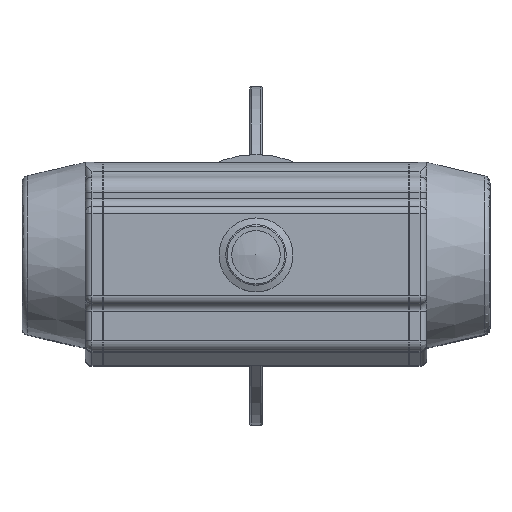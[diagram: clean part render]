
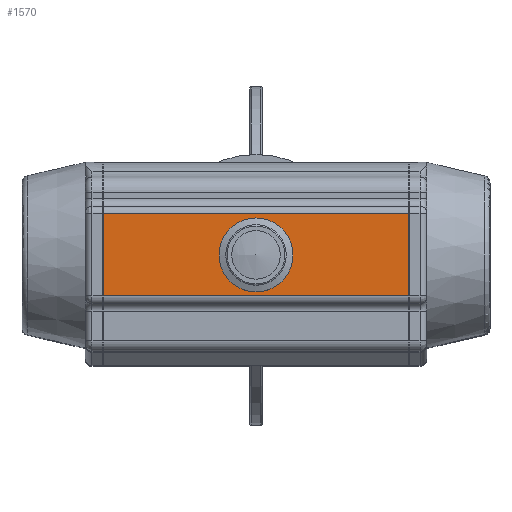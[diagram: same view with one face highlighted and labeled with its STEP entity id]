
A CAD part, top view. The second image highlights one B-rep face of the part: STEP entity #1570.
In plain terms, the highlighted planar face has unit normal (0, 0, 1).
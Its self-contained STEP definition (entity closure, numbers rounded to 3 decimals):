
#1570 = ADVANCED_FACE( '', ( #3265, #3266 ), #3267, .T. );
#3265 = FACE_BOUND( '', #5747, .T. );
#3266 = FACE_OUTER_BOUND( '', #5748, .T. );
#3267 = PLANE( '', #5749 );
#5747 = EDGE_LOOP( '', ( #11068 ) );
#5748 = EDGE_LOOP( '', ( #11069, #11070, #11071, #11072 ) );
#5749 = AXIS2_PLACEMENT_3D( '', #11073, #11074, #11075 );
#11068 = ORIENTED_EDGE( '', *, *, #13141, .F. );
#11069 = ORIENTED_EDGE( '', *, *, #12899, .F. );
#11070 = ORIENTED_EDGE( '', *, *, #12913, .F. );
#11071 = ORIENTED_EDGE( '', *, *, #11701, .T. );
#11072 = ORIENTED_EDGE( '', *, *, #12705, .T. );
#11073 = CARTESIAN_POINT( '', ( 113.5, -30.5, 79. ) );
#11074 = DIRECTION( '', ( 0., 0., 1. ) );
#11075 = DIRECTION( '', ( 1., 0., 0. ) );
#11701 = EDGE_CURVE( '', #13751, #13749, #13752, .T. );
#12705 = EDGE_CURVE( '', #13749, #15275, #15277, .T. );
#12899 = EDGE_CURVE( '', #15523, #15275, #15525, .T. );
#12913 = EDGE_CURVE( '', #13751, #15523, #15541, .T. );
#13141 = EDGE_CURVE( '', #15800, #15800, #15801, .T. );
#13749 = VERTEX_POINT( '', #16977 );
#13751 = VERTEX_POINT( '', #16979 );
#13752 = LINE( '', #16980, #16981 );
#15275 = VERTEX_POINT( '', #21713 );
#15277 = LINE( '', #21715, #21716 );
#15523 = VERTEX_POINT( '', #22595 );
#15525 = LINE( '', #22597, #22598 );
#15541 = LINE( '', #22620, #22621 );
#15800 = VERTEX_POINT( '', #23363 );
#15801 = CIRCLE( '', #23364, 27.5 );
#16977 = CARTESIAN_POINT( '', ( 113.5, 30.5, 79. ) );
#16979 = CARTESIAN_POINT( '', ( 113.5, -30.5, 79. ) );
#16980 = CARTESIAN_POINT( '', ( 113.5, -30.5, 79. ) );
#16981 = VECTOR( '', #23870, 1000. );
#21713 = CARTESIAN_POINT( '', ( -113.5, 30.5, 79. ) );
#21715 = CARTESIAN_POINT( '', ( 113.5, 30.5, 79. ) );
#21716 = VECTOR( '', #24810, 1000. );
#22595 = CARTESIAN_POINT( '', ( -113.5, -30.5, 79. ) );
#22597 = CARTESIAN_POINT( '', ( -113.5, -30.5, 79. ) );
#22598 = VECTOR( '', #24988, 1000. );
#22620 = CARTESIAN_POINT( '', ( 113.5, -30.5, 79. ) );
#22621 = VECTOR( '', #25000, 1000. );
#23363 = CARTESIAN_POINT( '', ( 27.5, 0., 79. ) );
#23364 = AXIS2_PLACEMENT_3D( '', #25179, #25180, #25181 );
#23870 = DIRECTION( '', ( 0., 1., 0. ) );
#24810 = DIRECTION( '', ( -1., 0., 0. ) );
#24988 = DIRECTION( '', ( 0., 1., 0. ) );
#25000 = DIRECTION( '', ( -1., 0., 0. ) );
#25179 = CARTESIAN_POINT( '', ( 0., 0., 79. ) );
#25180 = DIRECTION( '', ( 0., 0., 1. ) );
#25181 = DIRECTION( '', ( 1., 0., 0. ) );
